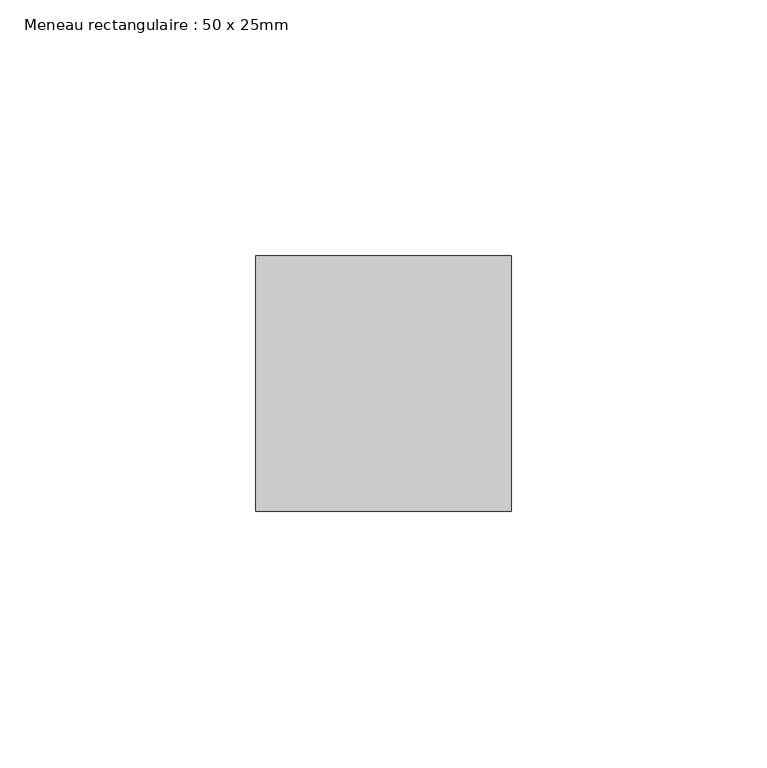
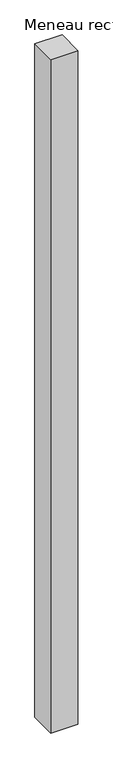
"""IFC4 building model written with IfcOpenShell, lengths in millimetres: member geometry, Meneau rectangulaire : 50 x 25mm."""

import ifcopenshell
import ifcopenshell.guid

model = None  # the IFC model being written
_history = None  # IfcOwnerHistory: only IFC2X3 demands one
_inside = {}  # id of a spatial element -> (the spatial element, [elements in it])
_under = {}  # id of a project, library or spatial element -> (it, [spatial elements below it])
_declared = {}  # id of a project -> (the project, [libraries it declares])
_typed = {}  # id of a type object -> (the type object, [elements of that type])
_made_of = {}  # id of a material, layer set ... -> (it, [elements and type objects made of it])


def new_model(schema):
    """Start an empty IFC model of exactly this schema.

    Asked for "IFC4X3", IfcOpenShell would pick the latest addendum, in which some entities
    have other attributes; the version numbers below select the first issue.
    IFC2X3 requires an IfcOwnerHistory on every rooted entity: one is made here for all.
    """
    global model, _history
    if schema == "IFC4X3":
        model = ifcopenshell.file(schema_version=(4, 3, 0, 0))
    else:
        model = ifcopenshell.file(schema=schema)
    _inside.clear()
    _under.clear()
    _declared.clear()
    _typed.clear()
    _made_of.clear()
    _history = None
    if model.schema == "IFC2X3":
        org = make("IfcOrganization", Name="unknown")
        user = make(
            "IfcPersonAndOrganization",
            ThePerson=make("IfcPerson", FamilyName="unknown"),
            TheOrganization=org,
        )
        app = make(
            "IfcApplication",
            ApplicationDeveloper=org,
            Version="unknown",
            ApplicationFullName="unknown",
            ApplicationIdentifier="unknown",
        )
        _history = make(
            "IfcOwnerHistory",
            OwningUser=user,
            OwningApplication=app,
            ChangeAction="ADDED",
            CreationDate=0,
        )
    return model


def make(cls, **values):
    """One entity of the class cls with the attributes given. An attribute that is None is left unset."""
    return model.create_entity(
        cls, **{name: value for name, value in values.items() if value is not None}
    )


def rooted(cls, **values):
    """An entity with a GlobalId (a new one), such as an element, a storey or a relation."""
    return make(cls, GlobalId=ifcopenshell.guid.new(), OwnerHistory=_history, **values)


def si_unit(unit_type, name, prefix=None):
    """IfcSIUnit, for example si_unit("LENGTHUNIT", "METRE", prefix="MILLI")."""
    return make("IfcSIUnit", UnitType=unit_type, Prefix=prefix, Name=name)


def assignment(units):
    """IfcUnitAssignment: the units of a project."""
    return None if units is None else make("IfcUnitAssignment", Units=units)


def point(xyz):
    """IfcCartesianPoint."""
    return None if xyz is None else make("IfcCartesianPoint", Coordinates=xyz)


def direction(xyz):
    """IfcDirection."""
    return None if xyz is None else make("IfcDirection", DirectionRatios=xyz)


def frame(location, z_axis=None, x_axis=None):
    """IfcAxis2Placement3D, a coordinate frame: its origin and axes. An axis left out is left unset."""
    return make(
        "IfcAxis2Placement3D",
        Location=point(location),
        Axis=direction(z_axis),
        RefDirection=direction(x_axis),
    )


def origin():
    """The frame at (0, 0, 0) with its axes left unset."""
    return frame((0.0, 0.0, 0.0))


def place(relative_to, where):
    """IfcLocalPlacement: puts the frame where relative to a parent placement (None: the world)."""
    return make(
        "IfcLocalPlacement", PlacementRelTo=relative_to, RelativePlacement=where
    )


def context(
    kind, dimensions, precision=None, world=None, true_north=None, identifier=None
):
    """IfcGeometricRepresentationContext, for example the 3D "Model" context."""
    return make(
        "IfcGeometricRepresentationContext",
        ContextIdentifier=identifier,
        ContextType=kind,
        CoordinateSpaceDimension=dimensions,
        Precision=precision,
        WorldCoordinateSystem=world,
        TrueNorth=true_north,
    )


def project(units=None, contexts=None):
    """IfcProject with its units and contexts."""
    return rooted(
        "IfcProject",
        Name="project",
        RepresentationContexts=contexts,
        UnitsInContext=assignment(units),
    )


def spatial(cls, under=None, at=None, **own):
    """A site, building, storey or space (cls), placed at a placement, below another one or the project."""
    s = rooted(cls, ObjectPlacement=at, **own)
    if under is not None:
        _under.setdefault(under.id(), (under, []))[1].append(s)
    return s


def polyline(points):
    """IfcPolyline through the points."""
    return make("IfcPolyline", Points=[point(p) for p in points])


def outline(outer, holes=None, kind="AREA"):
    """IfcArbitraryClosedProfileDef: a profile drawn as a closed curve; with holes, ...WithVoids."""
    if holes is None:
        return make("IfcArbitraryClosedProfileDef", ProfileType=kind, OuterCurve=outer)
    return make(
        "IfcArbitraryProfileDefWithVoids",
        ProfileType=kind,
        OuterCurve=outer,
        InnerCurves=holes,
    )


def extrude(swept, where, along, depth):
    """IfcExtrudedAreaSolid: the profile swept, set in the frame where, extruded along a direction by depth."""
    return make(
        "IfcExtrudedAreaSolid",
        SweptArea=swept,
        Position=where,
        ExtrudedDirection=direction(along),
        Depth=depth,
    )


def shape(context_of_items, identifier, shape_type, items):
    """IfcShapeRepresentation: the items that make up one representation, for example the "Body"."""
    return make(
        "IfcShapeRepresentation",
        ContextOfItems=context_of_items,
        RepresentationIdentifier=identifier,
        RepresentationType=shape_type,
        Items=items,
    )


def source(mapping_origin, context_of_items, identifier, shape_type, items):
    """IfcRepresentationMap: a shape defined once, which mapped items show again and again."""
    return make(
        "IfcRepresentationMap",
        MappingOrigin=mapping_origin,
        MappedRepresentation=shape(context_of_items, identifier, shape_type, items),
    )


def transform(
    local_origin,
    x_axis=None,
    y_axis=None,
    z_axis=None,
    scale=None,
    scale2=None,
    scale3=None,
    uniform=True,
):
    """IfcCartesianTransformationOperator3D, or its non-uniform kind. x_axis, y_axis, z_axis: its Axis1, 2, 3."""
    if uniform:
        return make(
            "IfcCartesianTransformationOperator3D",
            Axis1=direction(x_axis),
            Axis2=direction(y_axis),
            LocalOrigin=point(local_origin),
            Scale=scale,
            Axis3=direction(z_axis),
        )
    return make(
        "IfcCartesianTransformationOperator3DnonUniform",
        Axis1=direction(x_axis),
        Axis2=direction(y_axis),
        LocalOrigin=point(local_origin),
        Scale=scale,
        Axis3=direction(z_axis),
        Scale2=scale2,
        Scale3=scale3,
    )


def mapped(mapping_source, mapping_target):
    """IfcMappedItem: shows the shape of a source again, moved by a transform."""
    return make(
        "IfcMappedItem", MappingSource=mapping_source, MappingTarget=mapping_target
    )


def made_of(thing, what):
    """Note that an element or type object is made of a material, layer set ...; save() writes the relation."""
    if what is not None:
        _made_of.setdefault(what.id(), (what, []))[1].append(thing)
    return thing


def element(
    cls,
    number,
    at=None,
    inside=None,
    cuts=None,
    type_object=None,
    material=None,
    context=None,
    identifier="Body",
    shape_type=None,
    held_by="IfcProductDefinitionShape",
    body=None,
    shapes=None,
    **own,
):
    """One element of the class cls, such as IfcWall. Its Tag is "e" and its number.

    at: its placement. inside: the storey or other place that contains it. cuts: it is an
    opening in that element (IfcRelVoidsElement). A single representation is given by context,
    identifier, shape_type and body (its items); several are given by shapes. held_by: the class
    of the entity that holds the representations. save() writes the other relations.
    """
    e = rooted(cls, Tag="e%d" % number, ObjectPlacement=at, **own)
    if body is not None:
        shapes = [shape(context, identifier, shape_type, body)]
    if shapes is not None:
        e.Representation = make(held_by, Representations=shapes)
    if inside is not None:
        _inside.setdefault(inside.id(), (inside, []))[1].append(e)
    if cuts is not None:
        rooted(
            "IfcRelVoidsElement", RelatingBuildingElement=cuts, RelatedOpeningElement=e
        )
    if type_object is not None:
        _typed.setdefault(type_object.id(), (type_object, []))[1].append(e)
    return made_of(e, material)


def aggregate(whole, parts):
    """IfcRelAggregates: a whole, such as a stair, and the parts it consists of."""
    return rooted("IfcRelAggregates", RelatingObject=whole, RelatedObjects=parts)


def save(model, path):
    """Write the relations noted so far, then the file.

    IfcRelAggregates (storeys below a building ...), IfcRelContainedInSpatialStructure (elements
    in a storey), IfcRelDefinesByType, IfcRelAssociatesMaterial and IfcRelDeclares: one each for
    every whole, place, type object, material and project.
    """
    for whole, parts in _under.values():
        aggregate(whole, parts)
    for where, things in _inside.values():
        rooted(
            "IfcRelContainedInSpatialStructure",
            RelatedElements=things,
            RelatingStructure=where,
        )
    for kind, things in _typed.values():
        rooted("IfcRelDefinesByType", RelatedObjects=things, RelatingType=kind)
    for what, things in _made_of.values():
        rooted("IfcRelAssociatesMaterial", RelatedObjects=things, RelatingMaterial=what)
    for by, libraries in _declared.values():
        rooted("IfcRelDeclares", RelatingContext=by, RelatedDefinitions=libraries)
    model.write(path)


def meneau_rectangulaire_50_x_25mm_32f0e9e8(model_context):
    return source(origin(), model_context, "Body", "SweptSolid", [
        extrude(outline(polyline([(0.0, 0.0), (0.0, -50.0), (-50.0, -50.0), (-50.0, 0.0), (0.0, 0.0)])), frame((0.0, 0.0, -1303.1685397), z_axis=(0.0, 0.0, 1.0), x_axis=(1.0, 0.0, 0.0)), (0.0, 0.0, 1.0), 1303.1685397),
    ])


if __name__ == "__main__":
    model = new_model("IFC4")
    model_context = context("Model", 3, world=origin())
    ifc_project = project(units=[si_unit("LENGTHUNIT", "METRE", prefix="MILLI")], contexts=[model_context])
    site = spatial("IfcSite", under=ifc_project)
    building = spatial("IfcBuilding", under=site)
    placement = place(None, origin())
    meneau_rectangulaire_50_x_25mm_shape = meneau_rectangulaire_50_x_25mm_32f0e9e8(model_context)
    element("IfcMember", 1, ObjectType="Meneau rectangulaire : 50 x 25mm", at=placement, inside=building, context=model_context, shape_type="MappedRepresentation", body=[
        mapped(meneau_rectangulaire_50_x_25mm_shape, transform((0.0, 0.0, 0.0), x_axis=(1.0, 0.0, 0.0), y_axis=(0.0, 1.0, 0.0), z_axis=(0.0, 0.0, 1.0))),
    ])
    save(model, "model.ifc")
